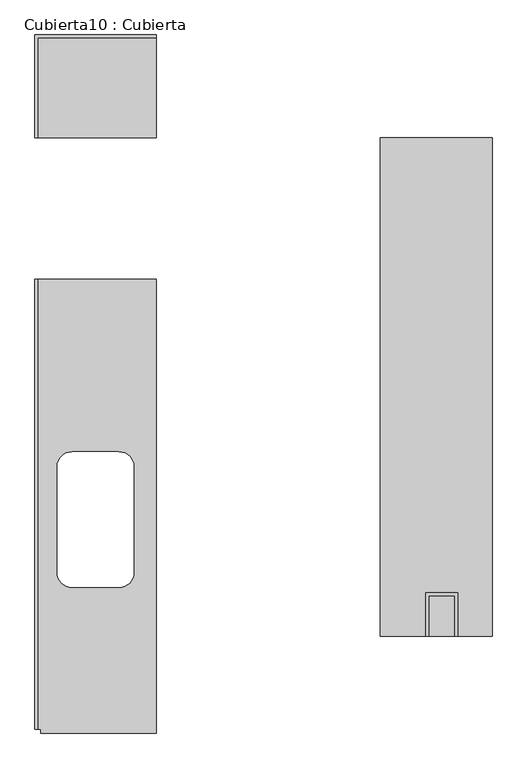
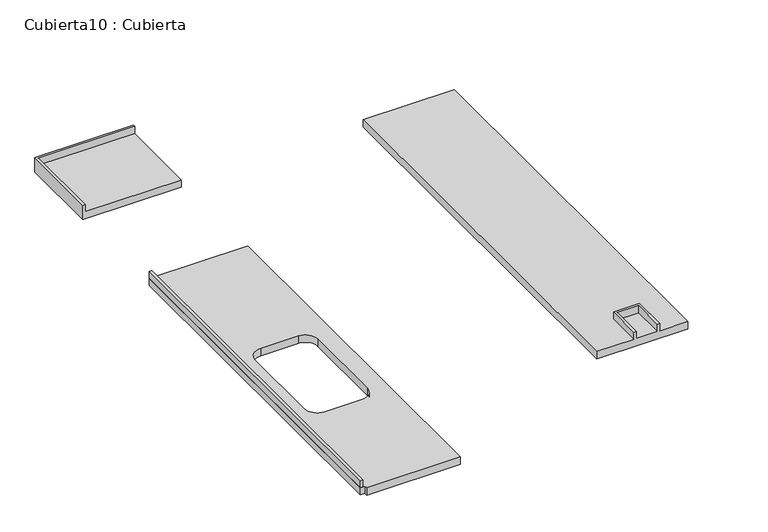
"""IFC4 building model written with IfcOpenShell, lengths in millimetres: furniture geometry, Cubierta10 : Cubierta."""

from ifc_helpers import new_model, si_unit, frame, origin, place, context, project, spatial, polyline, circle_curve, outline, extrude, faceted_brep, source, transform, mapped, element, save
from ifc_brep_helpers import plane_surface, revolved_surface, advanced_brep


def cubierta10_cubierta_a88932da(model_context):
    return source(origin(), model_context, "Body", "SolidModel", [
        extrude(outline(polyline([(34143.8589874, 27964.010184), (34158.8589874, 27964.010184), (34158.8589874, 25552.4819737), (34143.8589874, 25552.4819737), (34143.8589874, 27964.010184)])), frame((0.0, 0.0, 12900.0), z_axis=(0.0, 0.0, 1.0), x_axis=(1.0, 0.0, 0.0)), (0.0, 0.0, 1.0), 50.0),
        faceted_brep([(35993.8589874, 28724.010184, 12900.0), (35993.8589874, 26052.4819336, 12900.0), (36239.5300226, 26052.4819336, 12900.0), (36239.5300226, 26284.0176189, 12900.0), (36409.5300226, 26284.0176189, 12900.0), (36409.5300226, 26052.4819336, 12900.0), (36593.8589508, 26052.4819336, 12900.0), (36593.8589508, 28724.010184, 12900.0), (36254.5300226, 26052.4819336, 12900.0), (36394.5300226, 26052.4819336, 12900.0), (36394.5300226, 26269.0176189, 12900.0), (36254.5300226, 26269.0176189, 12900.0), (35993.8589874, 28724.010184, 12850.0), (36593.8589508, 28724.010184, 12850.0), (36593.8589508, 26052.4819336, 12850.0), (35993.8589874, 26052.4819336, 12850.0), (36254.5300226, 26052.4819336, 12950.0), (36239.5300226, 26052.4819336, 12950.0), (36409.5300226, 26052.4819336, 12950.0), (36394.5300226, 26052.4819336, 12950.0), (36254.5300226, 26269.0176189, 12950.0), (36394.5300226, 26269.0176189, 12950.0), (36409.5300226, 26284.0176189, 12950.0), (36239.5300226, 26284.0176189, 12950.0)], [[[0, 1, 2, 3, 4, 5, 6, 7]], [[8, 9, 10, 11]], [[12, 13, 14, 15]], [[1, 0, 12, 15]], [[7, 6, 14, 13]], [[0, 7, 13, 12]], [[16, 17, 2, 1, 15, 14, 6, 5, 18, 19, 9, 8]], [[17, 16, 20, 21, 19, 18, 22, 23]], [[2, 17, 23, 3]], [[16, 8, 11, 20]], [[23, 22, 4, 3]], [[21, 20, 11, 10]], [[18, 5, 4, 22]], [[9, 19, 21, 10]]]),
        advanced_brep(
        [(34793.8589874, 25532.4819737, 12900.0), (34793.8589874, 27964.010184, 12900.0), (34143.8589874, 27964.010184, 12900.0), (34143.8589874, 25552.4819737, 12900.0), (34173.8589874, 25552.4819737, 12900.0), (34173.8589874, 25532.4819737, 12900.0), (34262.8589874, 26959.010184, 12900.0), (34343.8589874, 27040.010184, 12900.0), (34593.8589874, 27040.010184, 12900.0), (34674.8589874, 26959.010184, 12900.0), (34674.8589874, 26394.010184, 12900.0), (34593.8589874, 26313.010184, 12900.0), (34343.8589874, 26313.010184, 12900.0), (34262.8589874, 26394.010184, 12900.0), (34793.8589874, 25532.4819737, 12850.0), (34173.8589874, 25532.4819737, 12850.0), (34173.8589874, 25552.4819737, 12850.0), (34143.8589874, 25552.4819737, 12850.0), (34143.8589874, 27964.010184, 12850.0), (34793.8589874, 27964.010184, 12850.0), (34262.8589874, 26959.010184, 12850.0), (34262.8589874, 26394.010184, 12850.0), (34343.8589874, 26313.010184, 12850.0), (34593.8589874, 26313.010184, 12850.0), (34674.8589874, 26394.010184, 12850.0), (34674.8589874, 26959.010184, 12850.0), (34593.8589874, 27040.010184, 12850.0), (34343.8589874, 27040.010184, 12850.0)],
        [
            (0, 1),
            (1, 2),
            (2, 3),
            (3, 4),
            (4, 5),
            (5, 0),
            (6, 7, circle_curve(frame((34343.8589874, 26959.010184, 12900.0), z_axis=(0.0, 0.0, -1.0), x_axis=(0.0, 1.0, 0.0)), 81.0)),
            (7, 8),
            (8, 9, circle_curve(frame((34593.8589874, 26959.010184, 12900.0), z_axis=(0.0, 0.0, -1.0), x_axis=(0.0, 1.0, 0.0)), 81.0)),
            (9, 10),
            (10, 11, circle_curve(frame((34593.8589874, 26394.010184, 12900.0), z_axis=(0.0, 0.0, -1.0), x_axis=(0.0, 1.0, 0.0)), 81.0)),
            (11, 12),
            (12, 13, circle_curve(frame((34343.8589874, 26394.010184, 12900.0), z_axis=(0.0, 0.0, -1.0), x_axis=(0.0, 1.0, 0.0)), 81.0)),
            (13, 6),
            (14, 15),
            (15, 16),
            (16, 17),
            (17, 18),
            (18, 19),
            (19, 14),
            (20, 21),
            (21, 22, circle_curve(frame((34343.8589874, 26394.010184, 12850.0), z_axis=(0.0, 0.0, 1.0), x_axis=(0.0, 1.0, 0.0)), 81.0)),
            (22, 23),
            (23, 24, circle_curve(frame((34593.8589874, 26394.010184, 12850.0), z_axis=(0.0, 0.0, 1.0), x_axis=(0.0, 1.0, 0.0)), 81.0)),
            (24, 25),
            (25, 26, circle_curve(frame((34593.8589874, 26959.010184, 12850.0), z_axis=(0.0, 0.0, 1.0), x_axis=(0.0, 1.0, 0.0)), 81.0)),
            (26, 27),
            (27, 20, circle_curve(frame((34343.8589874, 26959.010184, 12850.0), z_axis=(0.0, 0.0, 1.0), x_axis=(0.0, 1.0, 0.0)), 81.0)),
            (2, 18),
            (17, 3),
            (16, 4),
            (15, 5),
            (14, 0),
            (19, 1),
            (6, 20),
            (27, 7),
            (26, 8),
            (25, 9),
            (24, 10),
            (23, 11),
            (22, 12),
            (21, 13),
        ],
        [
            plane_surface(frame((35993.8589874, 27819.7057874, 12900.0), z_axis=(0.0, 0.0, 1.0), x_axis=(0.0, -1.0, 0.0))),
            plane_surface(frame((35993.8589874, 27819.7057874, 12850.0), z_axis=(0.0, 0.0, -1.0), x_axis=(0.0, 1.0, 0.0))),
            plane_surface(frame((34143.8589874, 27964.010184, 12900.0), z_axis=(-1.0, 0.0, 0.0), x_axis=(0.0, 0.0, -1.0))),
            plane_surface(frame((34143.8589874, 25552.4819737, 12900.0), z_axis=(0.0, -1.0, 0.0), x_axis=(0.0, 0.0, -1.0))),
            plane_surface(frame((34173.8589874, 25552.4819737, 12900.0), z_axis=(-1.0, 0.0, 0.0), x_axis=(0.0, 0.0, -1.0))),
            plane_surface(frame((34173.8589874, 25532.4819737, 12900.0), z_axis=(0.0, -1.0, 0.0), x_axis=(0.0, 0.0, -1.0))),
            plane_surface(frame((34793.8589874, 25532.4819737, 12900.0), z_axis=(1.0, 0.0, 0.0), x_axis=(0.0, 0.0, -1.0))),
            plane_surface(frame((34793.8589874, 27964.010184, 12900.0), z_axis=(0.0, 1.0, 0.0), x_axis=(0.0, 0.0, -1.0))),
            revolved_surface(polyline([(34343.8589874, 27040.010184, 12850.0), (34343.8589874, 27040.010184, 12900.0)]), (34343.8589874, 26959.010184, 12000.0), (0.0, 0.0, -1.0)),
            plane_surface(frame((34343.8589874, 27040.010184, 12900.0), z_axis=(0.0, -1.0, 0.0), x_axis=(0.0, 0.0, -1.0))),
            revolved_surface(polyline([(34593.8589874, 27040.010184, 12850.0), (34593.8589874, 27040.010184, 12900.0)]), (34593.8589874, 26959.010184, 12000.0), (0.0, 0.0, -1.0)),
            plane_surface(frame((34674.8589874, 26959.010184, 12900.0), z_axis=(-1.0, 0.0, 0.0), x_axis=(0.0, 0.0, -1.0))),
            revolved_surface(polyline([(34593.8589874, 26475.010184, 12850.0), (34593.8589874, 26475.010184, 12900.0)]), (34593.8589874, 26394.010184, 12000.0), (0.0, 0.0, -1.0)),
            plane_surface(frame((34593.8589874, 26313.010184, 12900.0), z_axis=(0.0, 1.0, 0.0), x_axis=(0.0, 0.0, -1.0))),
            revolved_surface(polyline([(34343.8589874, 26475.010184, 12850.0), (34343.8589874, 26475.010184, 12900.0)]), (34343.8589874, 26394.010184, 12000.0), (0.0, 0.0, -1.0)),
            plane_surface(frame((34262.8589874, 26394.010184, 12900.0), z_axis=(1.0, 0.0, 0.0), x_axis=(0.0, 0.0, -1.0))),
        ],
        [
            (0, [[1, 2, 3, 4, 5, 6], [7, 8, 9, 10, 11, 12, 13, 14]]),
            (1, [[15, 16, 17, 18, 19, 20], [21, 22, 23, 24, 25, 26, 27, 28]]),
            (2, [[-3, 29, -18, 30]]),
            (3, [[-4, -30, -17, 31]]),
            (4, [[-5, -31, -16, 32]]),
            (5, [[-6, -32, -15, 33]]),
            (6, [[-1, -33, -20, 34]]),
            (7, [[-2, -34, -19, -29]]),
            (8, [[-7, 35, -28, 36]]),
            (9, [[-8, -36, -27, 37]]),
            (10, [[-9, -37, -26, 38]]),
            (11, [[-10, -38, -25, 39]]),
            (12, [[-11, -39, -24, 40]]),
            (13, [[-12, -40, -23, 41]]),
            (14, [[-13, -41, -22, 42]]),
            (15, [[-14, -42, -21, -35]]),
        ],
    ),
        faceted_brep([(34158.8589874, 28724.010184, 12900.0), (34793.8589874, 28724.010184, 12900.0), (34793.8589874, 29259.010184, 12900.0), (34158.8589874, 29259.010184, 12900.0), (34793.8589874, 29274.010184, 12850.0), (34793.8589874, 28724.010184, 12850.0), (34143.8589874, 28724.010184, 12850.0), (34143.8589874, 29274.010184, 12850.0), (34143.8589874, 29274.010184, 12950.0), (34793.8589874, 29274.010184, 12950.0), (34793.8589874, 29259.010184, 12950.0), (34143.8589874, 28724.010184, 12950.0), (34158.8589874, 28724.010184, 12950.0), (34158.8589874, 29259.010184, 12950.0)], [[[0, 1, 2, 3]], [[4, 5, 6, 7]], [[4, 7, 8, 9]], [[10, 9, 8, 11, 12, 13]], [[2, 10, 13, 3]], [[12, 0, 3, 13]], [[11, 6, 5, 1, 0, 12]], [[5, 4, 9, 10, 2, 1]], [[8, 7, 6, 11]]]),
    ])


if __name__ == "__main__":
    model = new_model("IFC4")
    model_context = context("Model", 3, world=origin())
    ifc_project = project(units=[si_unit("LENGTHUNIT", "METRE", prefix="MILLI")], contexts=[model_context])
    site = spatial("IfcSite", under=ifc_project)
    building = spatial("IfcBuilding", under=site)
    placement = place(None, origin())
    cubierta10_cubierta_shape = cubierta10_cubierta_a88932da(model_context)
    element("IfcFurniture", 1, ObjectType="Cubierta10 : Cubierta", at=placement, inside=building, context=model_context, shape_type="MappedRepresentation", body=[
        mapped(cubierta10_cubierta_shape, transform((0.0, 0.0, 0.0), x_axis=(1.0, 0.0, 0.0), y_axis=(0.0, 1.0, 0.0), z_axis=(0.0, 0.0, 1.0))),
    ])
    save(model, "model.ifc")
